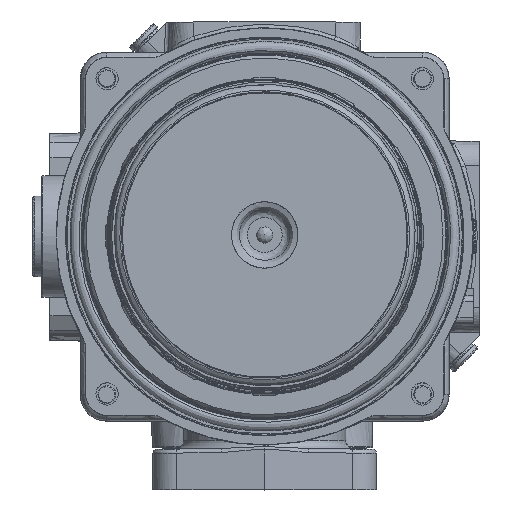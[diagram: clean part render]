
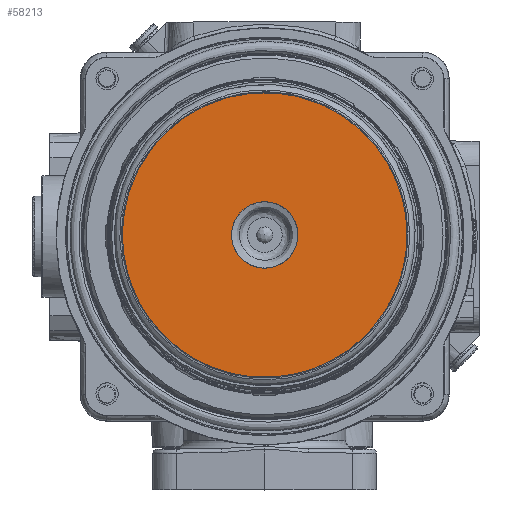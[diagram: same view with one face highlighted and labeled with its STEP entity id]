
A CAD part, top view. The second image highlights one B-rep face of the part: STEP entity #58213.
In plain terms, the highlighted free-form (B-spline) face has degree [1, 1] with [2, 2] control points.
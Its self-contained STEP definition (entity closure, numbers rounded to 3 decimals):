
#58105=CARTESIAN_POINT('V344',(-4.231,15.789,
   612.8));
#58106=VERTEX_POINT('V344',#58105);
#58120=CARTESIAN_POINT('E495',(-4.231,15.789,
   612.8));
#58121=CARTESIAN_POINT('E495',(-3.137,16.082,
   612.8));
#58122=CARTESIAN_POINT('E495',(-2.014,16.261,
   612.8));
#58123=CARTESIAN_POINT('E495',(0.231,16.382,
   612.8));
#58124=CARTESIAN_POINT('E495',(1.353,16.328,
   612.8));
#58125=CARTESIAN_POINT('E495',(3.535,15.996,
   612.8));
#58126=CARTESIAN_POINT('E495',(4.596,15.724,
   612.8));
#58127=CARTESIAN_POINT('E495',(6.604,14.989,
   612.8));
#58128=CARTESIAN_POINT('E495',(7.554,14.534,
   612.8));
#58129=CARTESIAN_POINT('E495',(9.349,13.449,
   612.8));
#58130=CARTESIAN_POINT('E495',(10.194,12.82,
   612.8));
#58131=CARTESIAN_POINT('E495',(11.859,11.313,
   612.8));
#58132=CARTESIAN_POINT('E495',(12.658,10.411,
   612.8));
#58133=CARTESIAN_POINT('E495',(14.573,7.702,
   612.8));
#58134=CARTESIAN_POINT('E495',(15.455,5.729,
   612.8));
#58135=CARTESIAN_POINT('E495',(16.179,2.579,
   612.8));
#58136=CARTESIAN_POINT('E495',(16.318,1.47,
   612.8));
#58137=CARTESIAN_POINT('E495',(16.365,-0.674,
   612.8));
#58138=CARTESIAN_POINT('E495',(16.289,-1.708,
   612.8));
#58139=CARTESIAN_POINT('E495',(15.945,-3.744,
   612.8));
#58140=CARTESIAN_POINT('E495',(15.676,-4.745,
   612.8));
#58141=CARTESIAN_POINT('E495',(14.933,-6.738,
   612.8));
#58142=CARTESIAN_POINT('E495',(14.446,-7.726,
   612.8));
#58143=CARTESIAN_POINT('E495',(12.823,
   -10.327,612.8));
#58144=CARTESIAN_POINT('E495',(11.473,
   -11.809,612.8));
#58145=CARTESIAN_POINT('E495',(9.034,-13.666,
   612.8));
#58146=CARTESIAN_POINT('E495',(8.097,-14.242,
   612.8));
#58147=CARTESIAN_POINT('E495',(6.127,-15.194,
   612.8));
#58148=CARTESIAN_POINT('E495',(5.094,-15.57,
   612.8));
#58149=CARTESIAN_POINT('E495',(2.974,-16.11,
   612.8));
#58150=CARTESIAN_POINT('E495',(1.887,-16.273,
   612.8));
#58151=CARTESIAN_POINT('E495',(-0.263,
   -16.378,612.8));
#58152=CARTESIAN_POINT('E495',(-1.326,
   -16.326,612.8));
#58153=CARTESIAN_POINT('E495',(-4.368,
   -15.88,612.8));
#58154=CARTESIAN_POINT('E495',(-6.308,
   -15.214,612.8));
#58155=CARTESIAN_POINT('E495',(-8.955,
   -13.713,612.8));
#58156=CARTESIAN_POINT('E495',(-9.801,
   -13.122,612.8));
#58157=CARTESIAN_POINT('E495',(-11.43,
   -11.738,612.8));
#58158=CARTESIAN_POINT('E495',(-12.202,
   -10.934,612.8));
#58159=CARTESIAN_POINT('E495',(-13.566,
   -9.185,612.8));
#58160=CARTESIAN_POINT('E495',(-14.16,
   -8.242,612.8));
#58161=CARTESIAN_POINT('E495',(-15.143,
   -6.254,612.8));
#58162=CARTESIAN_POINT('E495',(-15.533,
   -5.209,612.8));
#58163=CARTESIAN_POINT('E495',(-16.093,
   -3.069,612.8));
#58164=CARTESIAN_POINT('E495',(-16.264,
   -1.973,612.8));
#58165=CARTESIAN_POINT('E495',(-16.382,0.232,
   612.8));
#58166=CARTESIAN_POINT('E495',(-16.328,1.34,
   612.8));
#58167=CARTESIAN_POINT('E495',(-16.,3.523,
   612.8));
#58168=CARTESIAN_POINT('E495',(-15.725,4.598,
   612.8));
#58169=CARTESIAN_POINT('E495',(-14.981,6.624,
   612.8));
#58170=CARTESIAN_POINT('E495',(-14.521,7.579,
   612.8));
#58171=CARTESIAN_POINT('E495',(-12.892,
   10.263,612.8));
#58172=CARTESIAN_POINT('E495',(-11.465,
   11.836,612.8));
#58173=CARTESIAN_POINT('E495',(-8.135,14.329,
   612.8));
#58174=CARTESIAN_POINT('E495',(-6.234,15.252,
   612.8));
#58175=CARTESIAN_POINT('E495',(-4.231,15.789,
   612.8));
#58176=B_SPLINE_CURVE_WITH_KNOTS('E495',3,(#58120,#58121,#58122,
   #58123,#58124,#58125,#58126,#58127,#58128,#58129,#58130,#58131,
   #58132,#58133,#58134,#58135,#58136,#58137,#58138,#58139,#58140,
   #58141,#58142,#58143,#58144,#58145,#58146,#58147,#58148,#58149,
   #58150,#58151,#58152,#58153,#58154,#58155,#58156,#58157,#58158,
   #58159,#58160,#58161,#58162,#58163,#58164,#58165,#58166,#58167,
   #58168,#58169,#58170,#58171,#58172,#58173,#58174,#58175),
   .UNSPECIFIED.,.T.,.U.,(4,2,2,2,2,2,2,2,2,2,2,2,2,2,2,2,2,2,2,2,2,
   2,2,2,2,2,2,4),(2.0,2.644,3.279,
   3.9,4.496,5.093,
   5.774,6.98,7.613,
   8.2,8.788,9.411,
   10.532,11.155,11.777,
   12.4,13.002,14.149,
   14.734,15.365,15.996,
   16.627,17.255,17.883,
   18.511,19.111,20.297,
   21.478),.UNSPECIFIED.);
#58177=EDGE_CURVE('E495',#58106,#58106,#58176,.T.);
#58184=CARTESIAN_POINT('F182',(57.753,
   100.031,612.8));
#58185=CARTESIAN_POINT('F182',(-100.031,
   57.753,612.8));
#58186=CARTESIAN_POINT('F182',(100.031,
   -57.753,612.8));
#58187=CARTESIAN_POINT('F182',(-57.753,
   -100.031,612.8));
#58188=QUASI_UNIFORM_SURFACE('F182',1,1,((#58184,#58186),(#58185,
   #58187)),.PLANE_SURF.,.F.,.F.,.U.);
#58189=CARTESIAN_POINT('V343',(-18.182,
   67.856,612.8));
#58190=VERTEX_POINT('V343',#58189);
#58191=CARTESIAN_POINT('E494',(-18.182,
   67.856,612.8));
#58192=CARTESIAN_POINT('E494',(-135.713,
   36.364,612.8));
#58193=CARTESIAN_POINT('E494',(-49.674,
   -49.674,612.8));
#58194=CARTESIAN_POINT('E494',(36.364,
   -135.713,612.8));
#58195=CARTESIAN_POINT('E494',(67.856,
   -18.182,612.8));
#58196=CARTESIAN_POINT('E494',(99.349,99.349,
   612.8));
#58197=CARTESIAN_POINT('E494',(-18.182,
   67.856,612.8));
#58205=(BOUNDED_CURVE()B_SPLINE_CURVE(2,(#58191,#58192,#58193,
   #58194,#58195,#58196,#58197),.CIRCULAR_ARC.,.T.,.U.)
   B_SPLINE_CURVE_WITH_KNOTS((3,2,2,3),(2.0,25.417,
   48.833,72.25),.UNSPECIFIED.)CURVE()
   GEOMETRIC_REPRESENTATION_ITEM()RATIONAL_B_SPLINE_CURVE((1.0,
   0.5,1.0,0.5,1.0,0.5,1.0)
   )REPRESENTATION_ITEM('E494'));
#58206=EDGE_CURVE('E494',#58190,#58190,#58205,.T.);
#58207=ORIENTED_EDGE('E494',*,*,#58206,.T.);
#58208=EDGE_LOOP('F182',(#58207));
#58209=FACE_OUTER_BOUND('F182',#58208,.T.);
#58210=ORIENTED_EDGE('E495',*,*,#58177,.T.);
#58211=EDGE_LOOP('F182',(#58210));
#58212=FACE_BOUND('F182',#58211,.T.);
#58213=ADVANCED_FACE('F182',(#58209,#58212),#58188,.T.);
